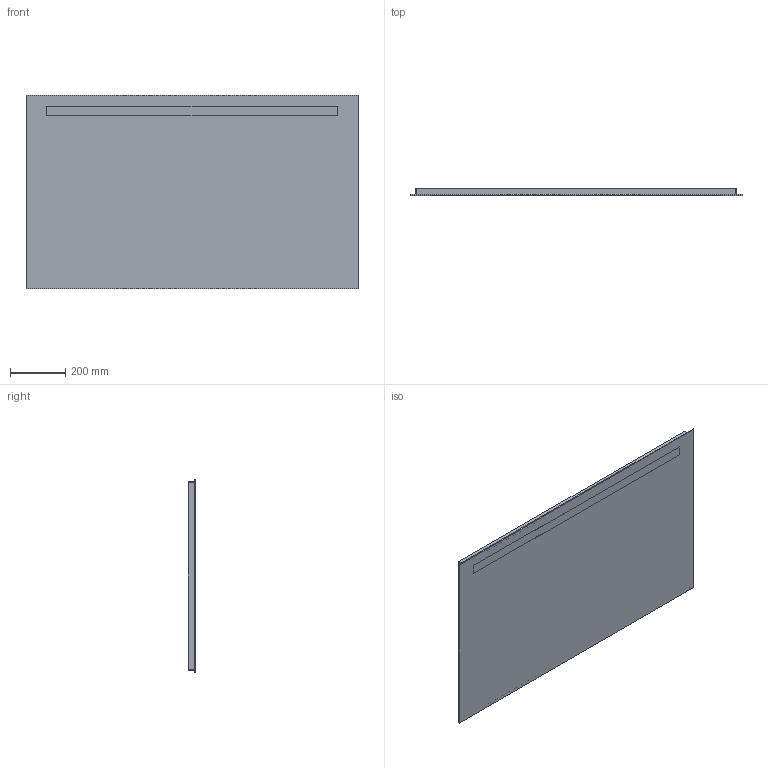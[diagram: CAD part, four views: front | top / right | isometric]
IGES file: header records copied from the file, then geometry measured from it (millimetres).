
Global section: file name: 502810; native system: Autodesk Inventor 2021; preprocessor: unknown; author: JANAN; date: 20221202.151358; units: millimetre
Bounding box: 1200 x 26 x 700 mm (x, y, z)
Volume: 20707743.9 mm3; surface area: 3354853.9 mm2
Topology: 2 solids, 2 shells, 29 faces, 68 edges, 48 vertices
Faces by surface type: bspline 29
